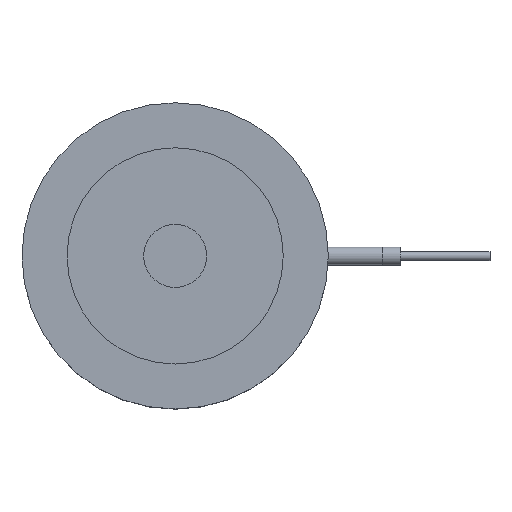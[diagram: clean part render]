
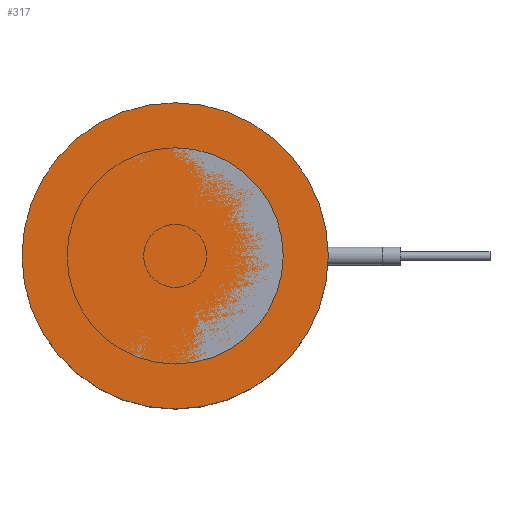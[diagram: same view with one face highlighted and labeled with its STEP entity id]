
A CAD part, top view. The second image highlights one B-rep face of the part: STEP entity #317.
In plain terms, the highlighted planar face has unit normal (0, 0, 1).
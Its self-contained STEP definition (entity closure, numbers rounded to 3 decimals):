
#199=PLANE('',#1165);
#237=FACE_OUTER_BOUND('',#525,.T.);
#317=ADVANCED_FACE('',(#237),#199,.F.);
#525=EDGE_LOOP('',(#657));
#657=ORIENTED_EDGE('',*,*,#946,.F.);
#854=VERTEX_POINT('',#1719);
#946=EDGE_CURVE('',#854,#854,#1057,.T.);
#1057=CIRCLE('',#1164,17.);
#1164=AXIS2_PLACEMENT_3D('',#1718,#1382,#1383);
#1165=AXIS2_PLACEMENT_3D('',#1720,#1384,#1385);
#1382=DIRECTION('',(0.,0.,-1.));
#1383=DIRECTION('',(-1.,0.,0.));
#1384=DIRECTION('',(0.,0.,-1.));
#1385=DIRECTION('',(-1.,0.,0.));
#1718=CARTESIAN_POINT('',(0.,0.,0.));
#1719=CARTESIAN_POINT('',(-17.,0.,0.));
#1720=CARTESIAN_POINT('',(0.,0.,0.));
